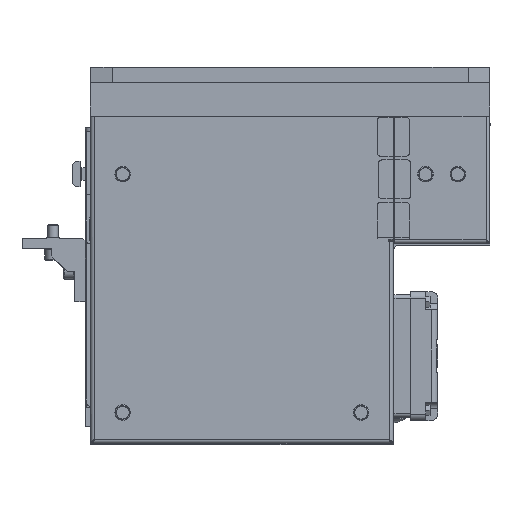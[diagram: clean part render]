
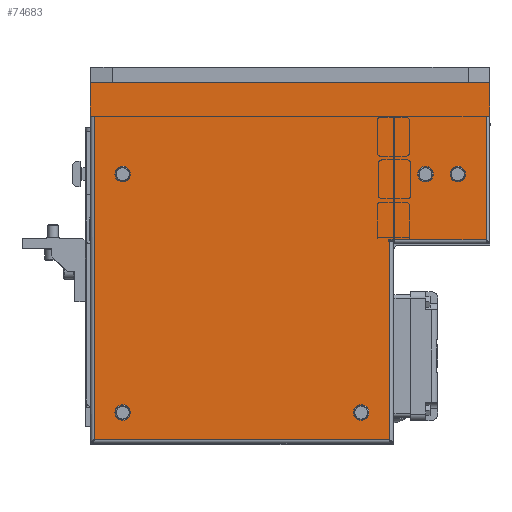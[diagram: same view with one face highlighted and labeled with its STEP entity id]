
A CAD part, front view. The second image highlights one B-rep face of the part: STEP entity #74683.
In plain terms, the highlighted planar face has unit normal (0, -1, 0).
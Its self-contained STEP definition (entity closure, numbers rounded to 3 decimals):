
#3712=LINE('',#109414,#10481);
#3731=LINE('',#109506,#10500);
#3737=LINE('',#109519,#10506);
#3741=LINE('',#109525,#10510);
#3866=LINE('',#109879,#10635);
#3875=LINE('',#109944,#10644);
#3880=LINE('',#110027,#10649);
#3881=LINE('',#110031,#10650);
#3894=LINE('',#110092,#10663);
#3895=LINE('',#110094,#10664);
#3896=LINE('',#110096,#10665);
#3899=LINE('',#110103,#10668);
#3900=LINE('',#110106,#10669);
#6395=LINE('',#118708,#13164);
#6608=LINE('',#119185,#13377);
#6668=LINE('',#119334,#13437);
#10481=VECTOR('',#87666,96.);
#10500=VECTOR('',#87705,71.);
#10506=VECTOR('',#87717,96.);
#10510=VECTOR('',#87723,1.);
#10635=VECTOR('',#87978,251.);
#10644=VECTOR('',#88003,229.);
#10649=VECTOR('',#88014,154.);
#10650=VECTOR('',#88017,3.75);
#10663=VECTOR('',#88044,0.75);
#10664=VECTOR('',#88047,1.5);
#10665=VECTOR('',#88050,95.5);
#10668=VECTOR('',#88059,3.);
#10669=VECTOR('',#88062,3.);
#13164=VECTOR('',#95537,26.);
#13377=VECTOR('',#95894,310.);
#13437=VECTOR('',#96048,26.);
#15612=FACE_BOUND('',#23338,.T.);
#15613=FACE_BOUND('',#23339,.T.);
#15614=FACE_BOUND('',#23340,.T.);
#15615=FACE_BOUND('',#23341,.T.);
#15616=FACE_BOUND('',#23342,.T.);
#19179=FACE_OUTER_BOUND('',#23337,.T.);
#23337=EDGE_LOOP('',(#58817,#58818,#58819,#58820,#58821,#58822,#58823,#58824,
#58825,#58826,#58827,#58828,#58829,#58830,#58831,#58832));
#23338=EDGE_LOOP('',(#58833));
#23339=EDGE_LOOP('',(#58834));
#23340=EDGE_LOOP('',(#58835));
#23341=EDGE_LOOP('',(#58836));
#23342=EDGE_LOOP('',(#58837));
#25264=CIRCLE('',#76434,6.);
#25281=CIRCLE('',#76475,6.);
#25298=CIRCLE('',#76516,6.);
#25356=CIRCLE('',#76661,6.);
#25359=CIRCLE('',#76667,6.);
#28257=VERTEX_POINT('',#103843);
#28286=VERTEX_POINT('',#103961);
#28315=VERTEX_POINT('',#104079);
#28421=VERTEX_POINT('',#104522);
#28424=VERTEX_POINT('',#104531);
#29813=VERTEX_POINT('',#109392);
#29816=VERTEX_POINT('',#109412);
#29827=VERTEX_POINT('',#109496);
#29832=VERTEX_POINT('',#109518);
#29833=VERTEX_POINT('',#109524);
#29946=VERTEX_POINT('',#109860);
#29948=VERTEX_POINT('',#109878);
#29954=VERTEX_POINT('',#109936);
#29958=VERTEX_POINT('',#110025);
#29959=VERTEX_POINT('',#110029);
#29960=VERTEX_POINT('',#110030);
#29961=VERTEX_POINT('',#110090);
#29962=VERTEX_POINT('',#110101);
#29963=VERTEX_POINT('',#110105);
#32512=VERTEX_POINT('',#118706);
#32704=VERTEX_POINT('',#119183);
#35339=EDGE_CURVE('',#28257,#28257,#25264,.T.);
#35380=EDGE_CURVE('',#28286,#28286,#25281,.T.);
#35421=EDGE_CURVE('',#28315,#28315,#25298,.T.);
#35575=EDGE_CURVE('',#28421,#28421,#25356,.T.);
#35578=EDGE_CURVE('',#28424,#28424,#25359,.T.);
#37565=EDGE_CURVE('',#29813,#29816,#3712,.T.);
#37588=EDGE_CURVE('',#29827,#29813,#3731,.T.);
#37594=EDGE_CURVE('',#29832,#29827,#3737,.T.);
#37598=EDGE_CURVE('',#29833,#29832,#3741,.T.);
#37757=EDGE_CURVE('',#29948,#29946,#3866,.T.);
#37773=EDGE_CURVE('',#29946,#29954,#3875,.T.);
#37783=EDGE_CURVE('',#29954,#29958,#3880,.T.);
#37784=EDGE_CURVE('',#29959,#29960,#3881,.T.);
#37797=EDGE_CURVE('',#29958,#29961,#3894,.T.);
#37798=EDGE_CURVE('',#29961,#29959,#3895,.T.);
#37799=EDGE_CURVE('',#29833,#29960,#3896,.T.);
#37802=EDGE_CURVE('',#29816,#29962,#3899,.T.);
#37803=EDGE_CURVE('',#29963,#29948,#3900,.T.);
#41679=EDGE_CURVE('',#29962,#32512,#6395,.T.);
#41925=EDGE_CURVE('',#32512,#32704,#6608,.T.);
#42000=EDGE_CURVE('',#29963,#32704,#6668,.T.);
#58817=ORIENTED_EDGE('',*,*,#41679,.T.);
#58818=ORIENTED_EDGE('',*,*,#41925,.T.);
#58819=ORIENTED_EDGE('',*,*,#42000,.F.);
#58820=ORIENTED_EDGE('',*,*,#37803,.T.);
#58821=ORIENTED_EDGE('',*,*,#37757,.T.);
#58822=ORIENTED_EDGE('',*,*,#37773,.T.);
#58823=ORIENTED_EDGE('',*,*,#37783,.T.);
#58824=ORIENTED_EDGE('',*,*,#37797,.T.);
#58825=ORIENTED_EDGE('',*,*,#37798,.T.);
#58826=ORIENTED_EDGE('',*,*,#37784,.T.);
#58827=ORIENTED_EDGE('',*,*,#37799,.F.);
#58828=ORIENTED_EDGE('',*,*,#37598,.T.);
#58829=ORIENTED_EDGE('',*,*,#37594,.T.);
#58830=ORIENTED_EDGE('',*,*,#37588,.T.);
#58831=ORIENTED_EDGE('',*,*,#37565,.T.);
#58832=ORIENTED_EDGE('',*,*,#37802,.T.);
#58833=ORIENTED_EDGE('',*,*,#35339,.T.);
#58834=ORIENTED_EDGE('',*,*,#35380,.T.);
#58835=ORIENTED_EDGE('',*,*,#35421,.T.);
#58836=ORIENTED_EDGE('',*,*,#35575,.T.);
#58837=ORIENTED_EDGE('',*,*,#35578,.T.);
#67868=PLANE('',#80369);
#74683=ADVANCED_FACE('',(#19179,#15612,#15613,#15614,#15615,#15616),#67868,
 .T.);
#76434=AXIS2_PLACEMENT_3D('',#103844,#83623,#83624);
#76475=AXIS2_PLACEMENT_3D('',#103962,#83717,#83718);
#76516=AXIS2_PLACEMENT_3D('',#104080,#83811,#83812);
#76661=AXIS2_PLACEMENT_3D('',#104523,#84149,#84150);
#76667=AXIS2_PLACEMENT_3D('',#104532,#84161,#84162);
#80369=AXIS2_PLACEMENT_3D('',#119333,#96046,#96047);
#83623=DIRECTION('center_axis',(0.,1.,0.));
#83624=DIRECTION('ref_axis',(-1.,0.,0.));
#83717=DIRECTION('center_axis',(0.,1.,0.));
#83718=DIRECTION('ref_axis',(-1.,0.,0.));
#83811=DIRECTION('center_axis',(0.,1.,0.));
#83812=DIRECTION('ref_axis',(-1.,0.,0.));
#84149=DIRECTION('center_axis',(0.,1.,0.));
#84150=DIRECTION('ref_axis',(-1.,0.,0.));
#84161=DIRECTION('center_axis',(0.,1.,0.));
#84162=DIRECTION('ref_axis',(-1.,0.,0.));
#87666=DIRECTION('',(0.,0.,1.));
#87705=DIRECTION('',(1.,0.,0.));
#87717=DIRECTION('',(0.,0.,-1.));
#87723=DIRECTION('',(1.,0.,0.));
#87978=DIRECTION('',(0.,0.,-1.));
#88003=DIRECTION('',(1.,0.,0.));
#88014=DIRECTION('',(0.,0.,1.));
#88017=DIRECTION('',(1.,0.,0.));
#88044=DIRECTION('',(-1.,0.,0.));
#88047=DIRECTION('',(0.,0.,1.));
#88050=DIRECTION('',(0.,0.,-1.));
#88059=DIRECTION('',(1.,0.,0.));
#88062=DIRECTION('',(1.,0.,0.));
#95537=DIRECTION('',(0.,0.,1.));
#95894=DIRECTION('',(-1.,0.,0.));
#96046=DIRECTION('center_axis',(0.,-1.,0.));
#96047=DIRECTION('ref_axis',(0.,0.,1.));
#96048=DIRECTION('',(0.,0.,1.));
#103843=CARTESIAN_POINT('',(320.1,-207.5,-0.1));
#103844=CARTESIAN_POINT('Origin',(314.1,-207.5,-0.1));
#103961=CARTESIAN_POINT('',(245.1,-207.5,-185.1));
#103962=CARTESIAN_POINT('Origin',(239.1,-207.5,-185.1));
#104079=CARTESIAN_POINT('',(60.1,-207.5,-185.1));
#104080=CARTESIAN_POINT('Origin',(54.1,-207.5,-185.1));
#104522=CARTESIAN_POINT('',(60.1,-207.5,-0.1));
#104523=CARTESIAN_POINT('Origin',(54.1,-207.5,-0.1));
#104531=CARTESIAN_POINT('',(295.1,-207.5,-0.1));
#104532=CARTESIAN_POINT('Origin',(289.1,-207.5,-0.1));
#109392=CARTESIAN_POINT('',(336.1,-207.5,-51.1));
#109412=CARTESIAN_POINT('',(336.1,-207.5,44.9));
#109414=CARTESIAN_POINT('',(336.1,-207.5,20.15));
#109496=CARTESIAN_POINT('',(265.1,-207.5,-51.1));
#109506=CARTESIAN_POINT('',(319.1,-207.5,-51.1));
#109518=CARTESIAN_POINT('',(265.1,-207.5,44.9));
#109519=CARTESIAN_POINT('',(265.1,-207.5,44.9));
#109524=CARTESIAN_POINT('',(264.1,-207.5,44.9));
#109525=CARTESIAN_POINT('',(29.1,-207.5,44.9));
#109860=CARTESIAN_POINT('',(32.1,-207.5,-206.1));
#109878=CARTESIAN_POINT('',(32.1,-207.5,44.9));
#109879=CARTESIAN_POINT('',(32.1,-207.5,-145.6));
#109936=CARTESIAN_POINT('',(261.1,-207.5,-206.1));
#109944=CARTESIAN_POINT('',(205.35,-207.5,-206.1));
#110025=CARTESIAN_POINT('',(261.1,-207.5,-52.1));
#110027=CARTESIAN_POINT('',(261.1,-207.5,-67.1));
#110029=CARTESIAN_POINT('',(260.35,-207.5,-50.6));
#110030=CARTESIAN_POINT('',(264.1,-207.5,-50.6));
#110031=CARTESIAN_POINT('',(205.35,-207.5,-50.6));
#110090=CARTESIAN_POINT('',(260.35,-207.5,-52.1));
#110092=CARTESIAN_POINT('',(203.475,-207.5,-52.1));
#110094=CARTESIAN_POINT('',(260.35,-207.5,-66.35));
#110096=CARTESIAN_POINT('',(264.1,-207.5,44.9));
#110101=CARTESIAN_POINT('',(339.1,-207.5,44.9));
#110103=CARTESIAN_POINT('',(29.1,-207.5,44.9));
#110105=CARTESIAN_POINT('',(29.1,-207.5,44.9));
#110106=CARTESIAN_POINT('',(29.1,-207.5,44.9));
#118706=CARTESIAN_POINT('',(339.1,-207.5,70.9));
#118708=CARTESIAN_POINT('',(339.1,-207.5,67.9));
#119183=CARTESIAN_POINT('',(29.1,-207.5,70.9));
#119185=CARTESIAN_POINT('',(29.1,-207.5,70.9));
#119333=CARTESIAN_POINT('Origin',(29.1,-207.5,44.9));
#119334=CARTESIAN_POINT('',(29.1,-207.5,44.9));
